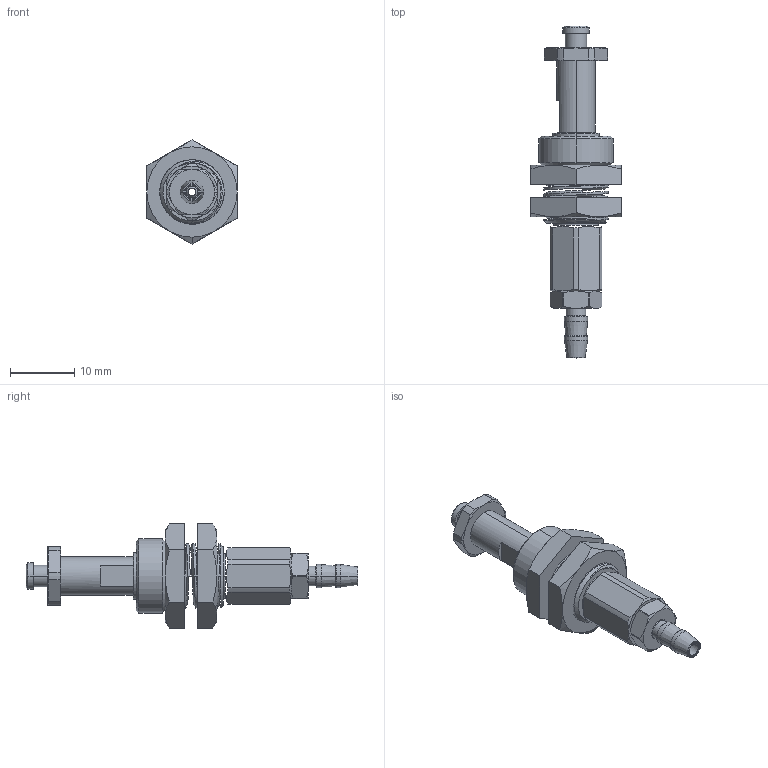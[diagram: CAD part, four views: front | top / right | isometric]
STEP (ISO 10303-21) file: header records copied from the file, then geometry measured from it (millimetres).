
FILE_DESCRIPTION (( 'STEP AP203' ), '1' );
FILE_NAME ('bln04-4bt5m10nk35-m5-耳4.1耳1.2-耳3.6_asm.STEP', '2024-10-29T05:28:30', ( '' ), ( '' ), 'SwSTEP 2.0', 'SolidWorks 2022', '' );
FILE_SCHEMA (( 'CONFIG_CONTROL_DESIGN' ));
Length unit declared in the file: millimetre
Products named in the file (1): bln04-4bt5m10nk35-m5-φ4.1φ1.2-φ3.6_asm
Bounding box: 14 x 51.5 x 16.17 mm (x, y, z)
Surface area: 2319.2 mm2 (no closed solid volume)
Topology: 0 solids, 12 shells, 188 faces, 500 edges, 326 vertices
Faces by surface type: cone 70, plane 48, cylinder 48, torus 18, bspline 4
Entity records: 8389 total; most frequent: CARTESIAN_POINT 4046, ORIENTED_EDGE 872, DIRECTION 812, EDGE_CURVE 500, AXIS2_PLACEMENT_3D 355, VERTEX_POINT 326, B_SPLINE_CURVE_WITH_KNOTS 228, EDGE_LOOP 204
